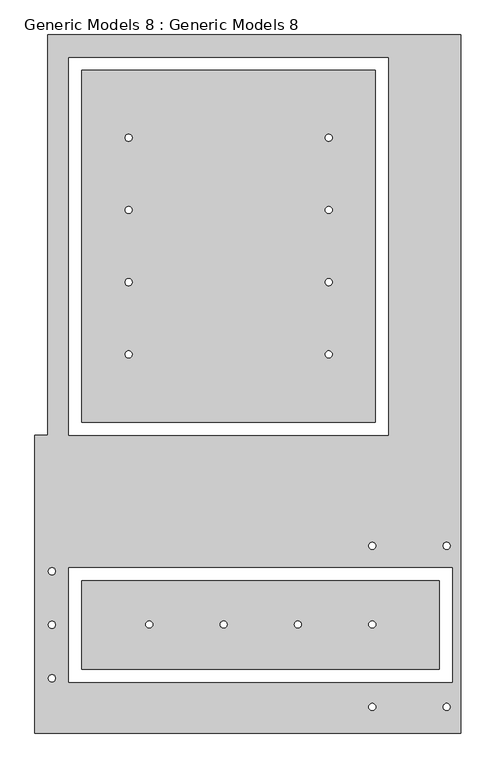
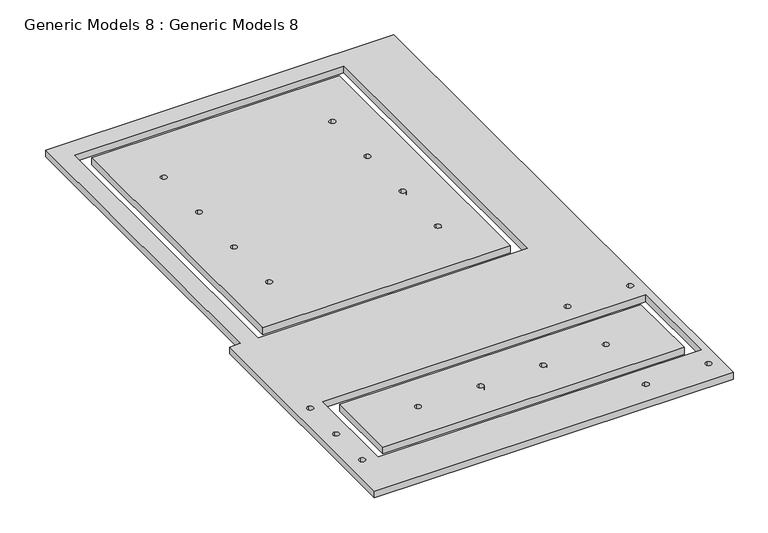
"""IFC4 building model written with IfcOpenShell, lengths in millimetres: proxy geometry, Generic Models 8 : Generic Models 8."""

from ifc_helpers import new_model, si_unit, point, frame, frame_2d, origin, place, context, project, spatial, polyline, circle_curve, trimmed, segment, composite_curve, outline, extrude, source, transform, mapped, element, save


def generic_models_8_generic_models_8_8e8264de(model_context):
    return source(origin(), model_context, "Body", "SweptSolid", [
        extrude(outline(polyline([(1351.8449565, -4515.4040425), (1351.8449565, -381.4040425), (4801.8449565, -381.4040425), (4801.8449565, -4515.4040425), (1351.8449565, -4515.4040425)]), holes=[composite_curve([segment(trimmed(circle_curve(frame_2d((1901.8449565, -2021.4040425)), 41.5), [point((1901.8449565, -1979.9040425))], [point((1901.8449565, -2062.9040425))], True, "CARTESIAN"), True, "CONTINUOUS"), segment(trimmed(circle_curve(frame_2d((1901.8449565, -2021.4040425)), 41.5), [point((1901.8449565, -2062.9040425))], [point((1901.8449565, -1979.9040425))], True, "CARTESIAN"), True, "CONTINUOUS")], self_intersect=False), composite_curve([segment(trimmed(circle_curve(frame_2d((1901.8449565, -1173.4040425)), 41.5), [point((1901.8449565, -1131.9040425))], [point((1901.8449565, -1214.9040425))], True, "CARTESIAN"), True, "CONTINUOUS"), segment(trimmed(circle_curve(frame_2d((1901.8449565, -1173.4040425)), 41.5), [point((1901.8449565, -1214.9040425))], [point((1901.8449565, -1131.9040425))], True, "CARTESIAN"), True, "CONTINUOUS")], self_intersect=False), composite_curve([segment(trimmed(circle_curve(frame_2d((4251.8449565, -3717.4040425)), 41.5), [point((4251.8449565, -3675.9040425))], [point((4251.8449565, -3758.9040425))], True, "CARTESIAN"), True, "CONTINUOUS"), segment(trimmed(circle_curve(frame_2d((4251.8449565, -3717.4040425)), 41.5), [point((4251.8449565, -3758.9040425))], [point((4251.8449565, -3675.9040425))], True, "CARTESIAN"), True, "CONTINUOUS")], self_intersect=False), composite_curve([segment(trimmed(circle_curve(frame_2d((4251.8449565, -2869.4040425)), 41.5), [point((4251.8449565, -2827.9040425))], [point((4251.8449565, -2910.9040425))], True, "CARTESIAN"), True, "CONTINUOUS"), segment(trimmed(circle_curve(frame_2d((4251.8449565, -2869.4040425)), 41.5), [point((4251.8449565, -2910.9040425))], [point((4251.8449565, -2827.9040425))], True, "CARTESIAN"), True, "CONTINUOUS")], self_intersect=False), composite_curve([segment(trimmed(circle_curve(frame_2d((4251.8449565, -2021.4040425)), 41.5), [point((4251.8449565, -1979.9040425))], [point((4251.8449565, -2062.9040425))], True, "CARTESIAN"), True, "CONTINUOUS"), segment(trimmed(circle_curve(frame_2d((4251.8449565, -2021.4040425)), 41.5), [point((4251.8449565, -2062.9040425))], [point((4251.8449565, -1979.9040425))], True, "CARTESIAN"), True, "CONTINUOUS")], self_intersect=False), composite_curve([segment(trimmed(circle_curve(frame_2d((4251.8449565, -1173.4040425)), 41.5), [point((4251.8449565, -1131.9040425))], [point((4251.8449565, -1214.9040425))], True, "CARTESIAN"), True, "CONTINUOUS"), segment(trimmed(circle_curve(frame_2d((4251.8449565, -1173.4040425)), 41.5), [point((4251.8449565, -1214.9040425))], [point((4251.8449565, -1131.9040425))], True, "CARTESIAN"), True, "CONTINUOUS")], self_intersect=False), composite_curve([segment(trimmed(circle_curve(frame_2d((1901.8449565, -2869.4040425)), 41.5), [point((1901.8449565, -2827.9040425))], [point((1901.8449565, -2910.9040425))], True, "CARTESIAN"), True, "CONTINUOUS"), segment(trimmed(circle_curve(frame_2d((1901.8449565, -2869.4040425)), 41.5), [point((1901.8449565, -2910.9040425))], [point((1901.8449565, -2827.9040425))], True, "CARTESIAN"), True, "CONTINUOUS")], self_intersect=False), composite_curve([segment(trimmed(circle_curve(frame_2d((1901.8449565, -3717.4040425)), 41.5), [point((1901.8449565, -3675.9040425))], [point((1901.8449565, -3758.9040425))], True, "CARTESIAN"), True, "CONTINUOUS"), segment(trimmed(circle_curve(frame_2d((1901.8449565, -3717.4040425)), 41.5), [point((1901.8449565, -3758.9040425))], [point((1901.8449565, -3675.9040425))], True, "CARTESIAN"), True, "CONTINUOUS")], self_intersect=False)]), frame((0.0, 0.0, 2700.0), z_axis=(0.0, 0.0, 1.0), x_axis=(1.0, 0.0, 0.0)), (0.0, 0.0, 1.0), 100.0),
        extrude(outline(polyline([(951.8449565, 34.5959575), (5801.8449565, 34.5959575), (5801.8449565, -8165.4040425), (801.8449565, -8165.4040425), (801.8449565, -4665.4040425), (951.8449565, -4665.4040425), (951.8449565, 34.5959575)]), holes=[polyline([(4951.8449565, -4665.4040425), (4951.8449565, -231.4040425), (1201.8449565, -231.4040425), (1201.8449565, -4665.4040425), (4951.8449565, -4665.4040425)]), polyline([(1201.8449565, -7565.4040425), (5701.8449565, -7565.4040425), (5701.8449565, -6224.4040425), (1201.8449565, -6224.4040425), (1201.8449565, -7565.4040425)]), composite_curve([segment(trimmed(circle_curve(frame_2d((1001.8449565, -6265.9040425)), 41.5), [point((1001.8449565, -6224.4040425))], [point((1001.8449565, -6307.4040425))], True, "CARTESIAN"), True, "CONTINUOUS"), segment(trimmed(circle_curve(frame_2d((1001.8449565, -6265.9040425)), 41.5), [point((1001.8449565, -6307.4040425))], [point((1001.8449565, -6224.4040425))], True, "CARTESIAN"), True, "CONTINUOUS")], self_intersect=False), composite_curve([segment(trimmed(circle_curve(frame_2d((1001.8449565, -6894.1540425)), 41.5), [point((1001.8449565, -6852.6540425))], [point((1001.8449565, -6935.6540425))], True, "CARTESIAN"), True, "CONTINUOUS"), segment(trimmed(circle_curve(frame_2d((1001.8449565, -6894.1540425)), 41.5), [point((1001.8449565, -6935.6540425))], [point((1001.8449565, -6852.6540425))], True, "CARTESIAN"), True, "CONTINUOUS")], self_intersect=False), composite_curve([segment(trimmed(circle_curve(frame_2d((4763.8449565, -7858.4040425)), 41.5), [point((4763.8449565, -7816.9040425))], [point((4763.8449565, -7899.9040425))], True, "CARTESIAN"), True, "CONTINUOUS"), segment(trimmed(circle_curve(frame_2d((4763.8449565, -7858.4040425)), 41.5), [point((4763.8449565, -7899.9040425))], [point((4763.8449565, -7816.9040425))], True, "CARTESIAN"), True, "CONTINUOUS")], self_intersect=False), composite_curve([segment(trimmed(circle_curve(frame_2d((5636.8449565, -7858.4040425)), 41.5), [point((5636.8449565, -7816.9040425))], [point((5636.8449565, -7899.9040425))], True, "CARTESIAN"), True, "CONTINUOUS"), segment(trimmed(circle_curve(frame_2d((5636.8449565, -7858.4040425)), 41.5), [point((5636.8449565, -7899.9040425))], [point((5636.8449565, -7816.9040425))], True, "CARTESIAN"), True, "CONTINUOUS")], self_intersect=False), composite_curve([segment(trimmed(circle_curve(frame_2d((4763.8449565, -5965.4040425)), 41.5), [point((4763.8449565, -5923.9040425))], [point((4763.8449565, -6006.9040425))], True, "CARTESIAN"), True, "CONTINUOUS"), segment(trimmed(circle_curve(frame_2d((4763.8449565, -5965.4040425)), 41.5), [point((4763.8449565, -6006.9040425))], [point((4763.8449565, -5923.9040425))], True, "CARTESIAN"), True, "CONTINUOUS")], self_intersect=False), composite_curve([segment(trimmed(circle_curve(frame_2d((5636.8449565, -5965.4040425)), 41.5), [point((5636.8449565, -5923.9040425))], [point((5636.8449565, -6006.9040425))], True, "CARTESIAN"), True, "CONTINUOUS"), segment(trimmed(circle_curve(frame_2d((5636.8449565, -5965.4040425)), 41.5), [point((5636.8449565, -6006.9040425))], [point((5636.8449565, -5923.9040425))], True, "CARTESIAN"), True, "CONTINUOUS")], self_intersect=False), composite_curve([segment(trimmed(circle_curve(frame_2d((1001.8449565, -7522.4040425)), 41.5), [point((1001.8449565, -7480.9040425))], [point((1001.8449565, -7563.9040425))], True, "CARTESIAN"), True, "CONTINUOUS"), segment(trimmed(circle_curve(frame_2d((1001.8449565, -7522.4040425)), 41.5), [point((1001.8449565, -7563.9040425))], [point((1001.8449565, -7480.9040425))], True, "CARTESIAN"), True, "CONTINUOUS")], self_intersect=False)]), frame((0.0, 0.0, 2700.0), z_axis=(0.0, 0.0, 1.0), x_axis=(1.0, 0.0, 0.0)), (0.0, 0.0, 1.0), 100.0),
        extrude(outline(polyline([(1351.8449565, -6374.4040425), (5551.8449565, -6374.4040425), (5551.8449565, -7415.4040425), (1351.8449565, -7415.4040425), (1351.8449565, -6374.4040425)]), holes=[composite_curve([segment(trimmed(circle_curve(frame_2d((2144.8449565, -6889.5675753)), 41.5), [point((2144.8449565, -6848.0675753))], [point((2144.8449565, -6931.0675753))], True, "CARTESIAN"), True, "CONTINUOUS"), segment(trimmed(circle_curve(frame_2d((2144.8449565, -6889.5675753)), 41.5), [point((2144.8449565, -6931.0675753))], [point((2144.8449565, -6848.0675753))], True, "CARTESIAN"), True, "CONTINUOUS")], self_intersect=False), composite_curve([segment(trimmed(circle_curve(frame_2d((3017.8449565, -6889.5675753)), 41.5), [point((3017.8449565, -6848.0675753))], [point((3017.8449565, -6931.0675753))], True, "CARTESIAN"), True, "CONTINUOUS"), segment(trimmed(circle_curve(frame_2d((3017.8449565, -6889.5675753)), 41.5), [point((3017.8449565, -6931.0675753))], [point((3017.8449565, -6848.0675753))], True, "CARTESIAN"), True, "CONTINUOUS")], self_intersect=False), composite_curve([segment(trimmed(circle_curve(frame_2d((3890.8449565, -6889.5675753)), 41.5), [point((3890.8449565, -6848.0675753))], [point((3890.8449565, -6931.0675753))], True, "CARTESIAN"), True, "CONTINUOUS"), segment(trimmed(circle_curve(frame_2d((3890.8449565, -6889.5675753)), 41.5), [point((3890.8449565, -6931.0675753))], [point((3890.8449565, -6848.0675753))], True, "CARTESIAN"), True, "CONTINUOUS")], self_intersect=False), composite_curve([segment(trimmed(circle_curve(frame_2d((4763.8449565, -6889.5675753)), 41.5), [point((4763.8449565, -6848.0675753))], [point((4763.8449565, -6931.0675753))], True, "CARTESIAN"), True, "CONTINUOUS"), segment(trimmed(circle_curve(frame_2d((4763.8449565, -6889.5675753)), 41.5), [point((4763.8449565, -6931.0675753))], [point((4763.8449565, -6848.0675753))], True, "CARTESIAN"), True, "CONTINUOUS")], self_intersect=False)]), frame((0.0, 0.0, 2700.0), z_axis=(0.0, 0.0, 1.0), x_axis=(1.0, 0.0, 0.0)), (0.0, 0.0, 1.0), 100.0),
    ])


if __name__ == "__main__":
    model = new_model("IFC4")
    model_context = context("Model", 3, world=origin())
    ifc_project = project(units=[si_unit("LENGTHUNIT", "METRE", prefix="MILLI")], contexts=[model_context])
    site = spatial("IfcSite", under=ifc_project)
    building = spatial("IfcBuilding", under=site)
    placement = place(None, origin())
    generic_models_8_generic_models_8_shape = generic_models_8_generic_models_8_8e8264de(model_context)
    element("IfcBuildingElementProxy", 1, Name="Generic Models 8 : Generic Models 8", ObjectType="Generic Models 8 : Generic Models 8", at=placement, inside=building, context=model_context, shape_type="MappedRepresentation", body=[
        mapped(generic_models_8_generic_models_8_shape, transform((0.0, 0.0, 0.0), x_axis=(1.0, 0.0, 0.0), y_axis=(0.0, 1.0, 0.0), z_axis=(0.0, 0.0, 1.0))),
    ])
    save(model, "model.ifc")
